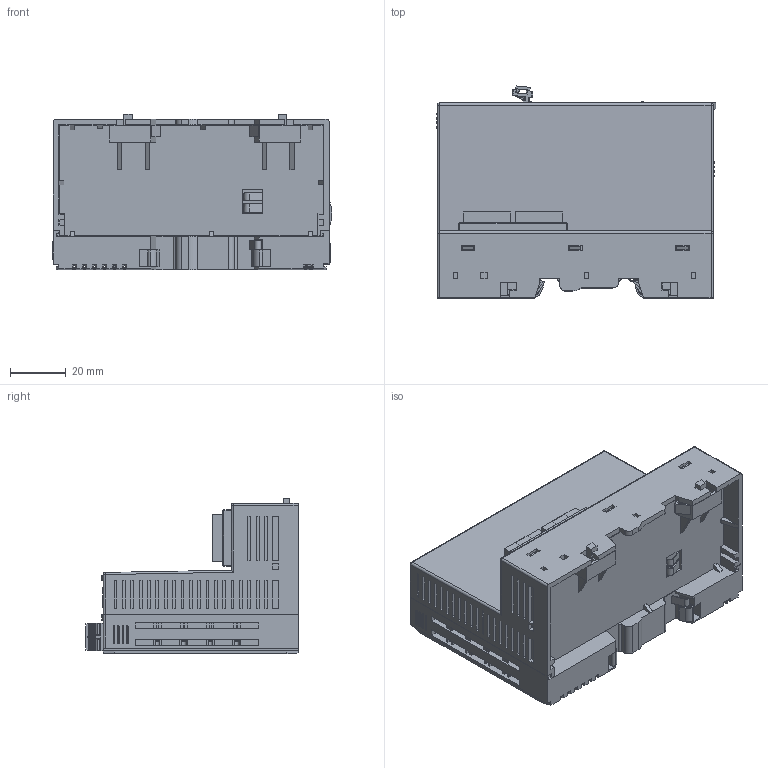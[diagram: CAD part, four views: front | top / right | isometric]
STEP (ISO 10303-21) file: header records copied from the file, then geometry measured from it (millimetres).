
FILE_DESCRIPTION((''),'2;1');
FILE_NAME('RN-9286','2019-10-08T',('seo'),(''),'CREO PARAMETRIC BY PTC INC, 2016130','CREO PARAMETRIC BY PTC INC, 2016130','');
FILE_SCHEMA(('CONFIG_CONTROL_DESIGN'));
Products named in the file (1): RN-9286
Bounding box: 100.36 x 76.15 x 55.8 mm (x, y, z)
Volume: 228612 mm3; surface area: 56766.7 mm2
Topology: 2 solids, 3 shells, 2309 faces, 6332 edges, 4142 vertices
Faces by surface type: plane 1948, cylinder 264, bspline 45, cone 20, torus 18, sphere 14
Entity records: 74130 total; most frequent: CARTESIAN_POINT 15381, ORIENTED_EDGE 12664, DIRECTION 11201, EDGE_CURVE 6332, VECTOR 5597, LINE 5597, VERTEX_POINT 4142, AXIS2_PLACEMENT_3D 2802
